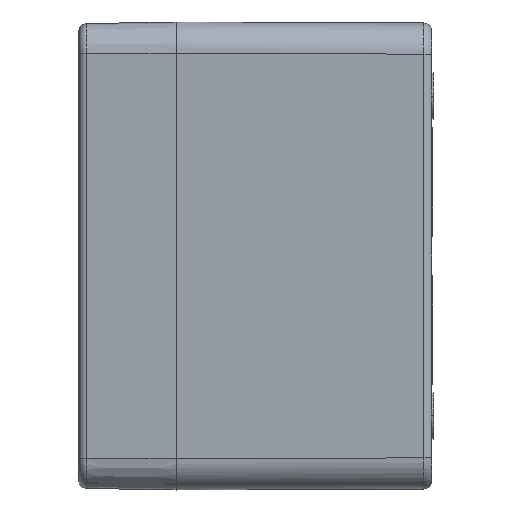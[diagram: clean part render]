
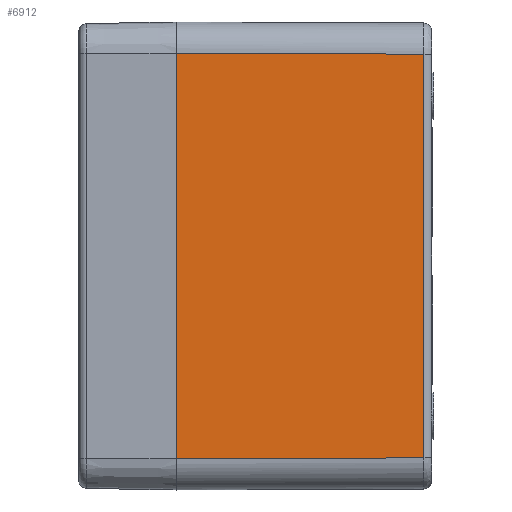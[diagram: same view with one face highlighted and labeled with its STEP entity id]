
A CAD part, left-side view. The second image highlights one B-rep face of the part: STEP entity #6912.
In plain terms, the highlighted planar face has unit normal (-1, -0.004, 0).
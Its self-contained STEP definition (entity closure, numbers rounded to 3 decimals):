
#680=CARTESIAN_POINT('',(-110.,0.,-52.));
#728=CARTESIAN_POINT('',(-110.,0.,52.));
#739=DIRECTION('',(0.,0.,-1.));
#740=VECTOR('',#739,104.);
#741=CARTESIAN_POINT('',(-110.,0.,52.));
#742=LINE('',#741,#740);
#3017=DIRECTION('',(0.,0.,1.));
#3018=VECTOR('',#3017,103.515);
#3019=CARTESIAN_POINT('',(-109.758,-63.508,
-51.758));
#3020=LINE('',#3019,#3018);
#3066=DIRECTION('',(-0.004,1.,-0.004));
#3067=VECTOR('',#3066,63.509);
#3068=CARTESIAN_POINT('',(-109.758,-63.508,
-51.758));
#3069=LINE('',#3068,#3067);
#3073=DIRECTION('',(-0.004,1.,0.004));
#3074=VECTOR('',#3073,63.509);
#3075=CARTESIAN_POINT('',(-109.758,-63.508,
51.758));
#3076=LINE('',#3075,#3074);
#3080=CARTESIAN_POINT('',(-109.758,-63.508,
-51.758));
#3187=CARTESIAN_POINT('',(-109.758,-63.508,
51.758));
#3868=VERTEX_POINT('',#680);
#3873=VERTEX_POINT('',#728);
#3877=VERTEX_POINT('',#3080);
#3894=VERTEX_POINT('',#3187);
#6899=CARTESIAN_POINT('',(-109.875,-32.75,0.));
#6900=DIRECTION('',(1.,0.004,0.));
#6901=DIRECTION('',(-0.004,1.,0.));
#6902=AXIS2_PLACEMENT_3D('',#6899,#6900,#6901);
#6903=PLANE('',#6902);
#6904=ORIENTED_EDGE('',*,*,#6859,.F.);
#6906=ORIENTED_EDGE('',*,*,#6905,.T.);
#6907=ORIENTED_EDGE('',*,*,#4376,.F.);
#6909=ORIENTED_EDGE('',*,*,#6908,.F.);
#6910=EDGE_LOOP('',(#6904,#6906,#6907,#6909));
#6911=FACE_OUTER_BOUND('',#6910,.F.);
#4376=EDGE_CURVE('',#3873,#3868,#742,.T.);
#6859=EDGE_CURVE('',#3877,#3894,#3020,.T.);
#6905=EDGE_CURVE('',#3877,#3868,#3069,.T.);
#6908=EDGE_CURVE('',#3894,#3873,#3076,.T.);
#6912=ADVANCED_FACE('',(#6911),#6903,.F.);
